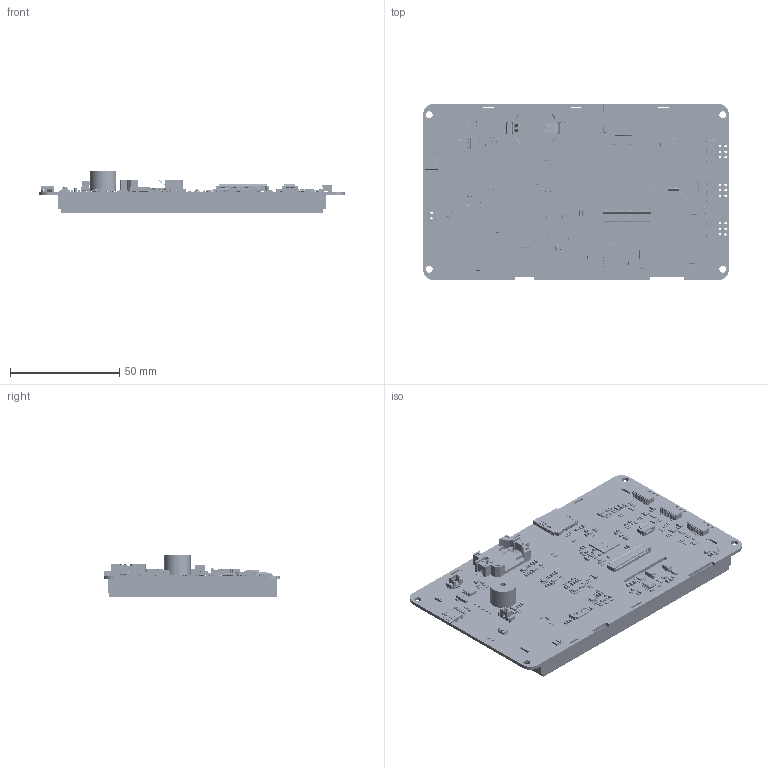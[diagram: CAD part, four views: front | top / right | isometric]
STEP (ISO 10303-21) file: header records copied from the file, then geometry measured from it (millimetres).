
FILE_DESCRIPTION(/* description */ ('Open CASCADE Model'),/* implementation_level */ '2;1');
FILE_NAME(/* name */ 'P80480-050P-L0101.stp',/* time_stamp */ '2025-10-27T10:40:47-03:00',/* author */ ('Reservaa'),/* organization */ ('Open CASCADE'),/* preprocessor_version */ 'ST-DEVELOPER v20',/* originating_system */ 'Autodesk Inventor 2024',/* authorisation */ 'Unknown');
FILE_SCHEMA (('AUTOMOTIVE_DESIGN { 1 0 10303 214 3 1 1 }'));
Products named in the file (290): PCB; Board; Open CASCADE STEP translator 7.5 3.1.1; R18; R17; R16; C43; C42; C41; C11; LCD1; Hyper_LCD_TK_5'; R96; R95; R94; C92; USB1; USB20_MICRO_SMD_W; Open CASCADE STEP translator 7.5 3.14.1.1; Open CASCADE STEP translator 7.5 3.14.1.2; Open CASCADE STEP translator 7.5 3.14.1.3; Open CASCADE STEP translator 7.5 3.14.1.4; Open CASCADE STEP translator 7.5 3.14.1.5; Open CASCADE STEP translator 7.5 3.14.1.6; Open CASCADE STEP translator 7.5 3.14.1.7; R86; R68; R67; R66; R65; R64; R63; R37; R36; BUZZER1; Buzzi_1209; U10; User Library-CSYTAL-MC146; R93; R92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
Assembly tree (497 placements, depth 4):
  PCB
    Board
      Open CASCADE STEP translator 7.5 3.1.1
    R18
      0603R
    R17
      0603R
    R16
      0603R
    C43
      Capacitor 0603 SMD
        User Library-cap0603_cap0603_body_??
        User Library-cap0603_pad_0603_??
    C42
      Capacitor 0603 SMD
        User Library-cap0603_cap0603_body_??
        User Library-cap0603_pad_0603_??
    C41
      Capacitor 0603 SMD
        User Library-cap0603_cap0603_body_??
        User Library-cap0603_pad_0603_??
    C11
      Capacitor 0603 SMD
        User Library-cap0603_cap0603_body_??
        User Library-cap0603_pad_0603_??
    LCD1
    R96
      0603R
    R95
      0603R
    R94
      0603R
    C92
      Capacitor 0603 SMD
        User Library-cap0603_cap0603_body_??
        User Library-cap0603_pad_0603_??
    USB1
      USB20_MICRO_SMD_W
        Open CASCADE STEP translator 7.5 3.14.1.1
        Open CASCADE STEP translator 7.5 3.14.1.2
        Open CASCADE STEP translator 7.5 3.14.1.3
        Open CASCADE STEP translator 7.5 3.14.1.4
        Open CASCADE STEP translator 7.5 3.14.1.5
        Open CASCADE STEP translator 7.5 3.14.1.6
        Open CASCADE STEP translator 7.5 3.14.1.7
    R86
      0603R
    R68
      0603R
    R67
      0603R
    R66
      0603R
    R65
      0603R
    R64
      0603R
    R63
      0603R
    R37
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Bounding box: 140 x 80.9 x 19.36 mm (x, y, z)
Volume: 98408.2 mm3; surface area: 74012.4 mm2
Topology: 674 solids, 674 shells, 24386 faces, 63379 edges, 40169 vertices
Faces by surface type: plane 15556, cylinder 4545, bspline 2868, sphere 988, torus 402, cone 27
Full cylindrical faces by diameter (mm): 0.17 x18, 0.254 x72, 0.3 x1, 0.6 x2, 0.65 x2, 0.8 x3, 1 x3, 1.1 x25, 1.2 x2, 1.5 x7, 1.8 x1, 2 x5, 2.5 x1, 2.83 x3, 3.2 x4, 7.517 x1, 12 x1
Entity records: 338564 total; most frequent: CARTESIAN_POINT 89232, ORIENTED_EDGE 50850, DIRECTION 45544, EDGE_CURVE 25425, LINE 21090, VECTOR 21090, VERTEX_POINT 16639, AXIS2_PLACEMENT_3D 12227
